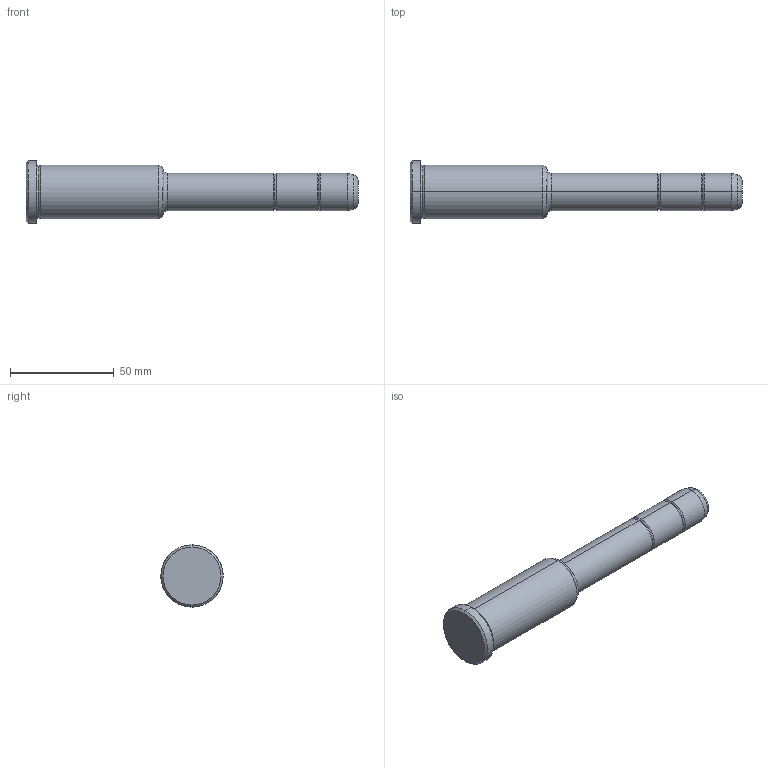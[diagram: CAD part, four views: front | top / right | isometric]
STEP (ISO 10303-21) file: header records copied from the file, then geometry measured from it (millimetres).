
FILE_DESCRIPTION(('CATIA V5 STEP Exchange'),'2;1');
FILE_NAME('C:\Users\Utente\Desktop\IO LAVORO\3D X SITO CF\X SITO\PLASTICA\351\351-18X66X160.stp','2021-08-27T11:20:56+00:00',('none'),('none'),'CATIA Version 5 Release 20 GA (IN-10)','CATIA V5 STEP AP203','none');
FILE_SCHEMA(('CONFIG_CONTROL_DESIGN'));
Length unit declared in the file: millimetre
Products named in the file (1): 351-18X66X160
Bounding box: 160 x 30 x 30 mm (x, y, z)
Volume: 59408.9 mm3; surface area: 11952.7 mm2
Topology: 1 solids, 1 shells, 36 faces, 102 edges, 70 vertices
Faces by surface type: torus 16, cylinder 10, cone 6, plane 4
Entity records: 1292 total; most frequent: CARTESIAN_POINT 321, ORIENTED_EDGE 204, DIRECTION 166, AXIS2_PLACEMENT_3D 115, EDGE_CURVE 102, CIRCLE 78, VERTEX_POINT 70, EDGE_LOOP 38
